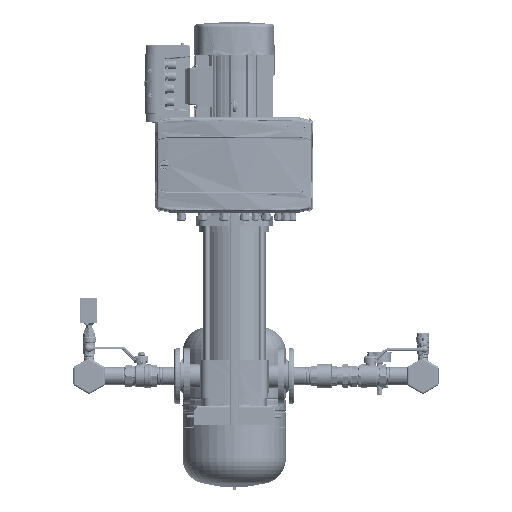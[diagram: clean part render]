
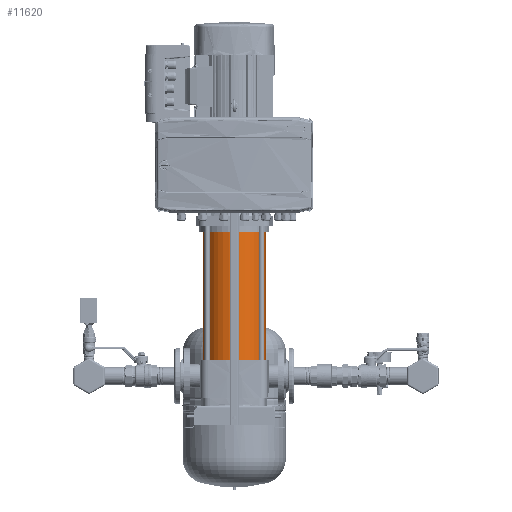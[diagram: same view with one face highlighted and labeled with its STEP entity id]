
A CAD part, left-side view. The second image highlights one B-rep face of the part: STEP entity #11620.
In plain terms, the highlighted cylindrical face has radius 85.35 mm (diameter 170.7 mm), a partial arc.
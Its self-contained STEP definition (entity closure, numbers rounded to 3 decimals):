
#11550=CARTESIAN_POINT('Axis2P3D Location',(374.,0.,0.)) ;
#11554=CARTESIAN_POINT('Vertex',(374.,-85.35,0.)) ;
#11556=CARTESIAN_POINT('Vertex',(374.,85.35,0.)) ;
#11577=CARTESIAN_POINT('Axis2P3D Location',(0.,0.,0.)) ;
#11582=CARTESIAN_POINT('Line Origine',(0.,-85.35,0.)) ;
#11586=CARTESIAN_POINT('Vertex',(0.,-85.35,0.)) ;
#11593=CARTESIAN_POINT('Vertex',(0.,85.35,0.)) ;
#11596=CARTESIAN_POINT('Line Origine',(0.,85.35,0.)) ;
#11609=CARTESIAN_POINT('Axis2P3D Location',(0.,0.,0.)) ;
#11584=VECTOR('Line Direction',#11583,1.) ;
#11598=VECTOR('Line Direction',#11597,1.) ;
#11551=DIRECTION('Axis2P3D Direction',(-1.,0.,0.)) ;
#11578=DIRECTION('Axis2P3D Direction',(1.,0.,0.)) ;
#11579=DIRECTION('Axis2P3D XDirection',(0.,-1.,0.)) ;
#11583=DIRECTION('Vector Direction',(1.,0.,0.)) ;
#11597=DIRECTION('Vector Direction',(1.,0.,0.)) ;
#11610=DIRECTION('Axis2P3D Direction',(1.,0.,0.)) ;
#11552=AXIS2_PLACEMENT_3D('Circle Axis2P3D',#11550,#11551,$) ;
#11580=AXIS2_PLACEMENT_3D('Cylinder Axis2P3D',#11577,#11578,#11579) ;
#11611=AXIS2_PLACEMENT_3D('Circle Axis2P3D',#11609,#11610,$) ;
#11585=LINE('Line',#11582,#11584) ;
#11599=LINE('Line',#11596,#11598) ;
#11553=CIRCLE('generated circle',#11552,85.35) ;
#11612=CIRCLE('generated circle',#11611,85.35) ;
#11581=CYLINDRICAL_SURFACE('generated cylinder',#11580,85.35) ;
#11558=EDGE_CURVE('',#11555,#11557,#11553,.T.) ;
#11588=EDGE_CURVE('',#11555,#11587,#11585,.F.) ;
#11600=EDGE_CURVE('',#11594,#11557,#11599,.T.) ;
#11613=EDGE_CURVE('',#11587,#11594,#11612,.F.) ;
#11615=ORIENTED_EDGE('',*,*,#11600,.F.) ;
#11616=ORIENTED_EDGE('',*,*,#11613,.F.) ;
#11617=ORIENTED_EDGE('',*,*,#11588,.F.) ;
#11618=ORIENTED_EDGE('',*,*,#11558,.T.) ;
#11614=EDGE_LOOP('',(#11615,#11616,#11617,#11618)) ;
#11555=VERTEX_POINT('',#11554) ;
#11557=VERTEX_POINT('',#11556) ;
#11587=VERTEX_POINT('',#11586) ;
#11594=VERTEX_POINT('',#11593) ;
#11620=ADVANCED_FACE('Solid1',(#11619),#11581,.T.) ;
#11619=FACE_OUTER_BOUND('',#11614,.T.) ;
